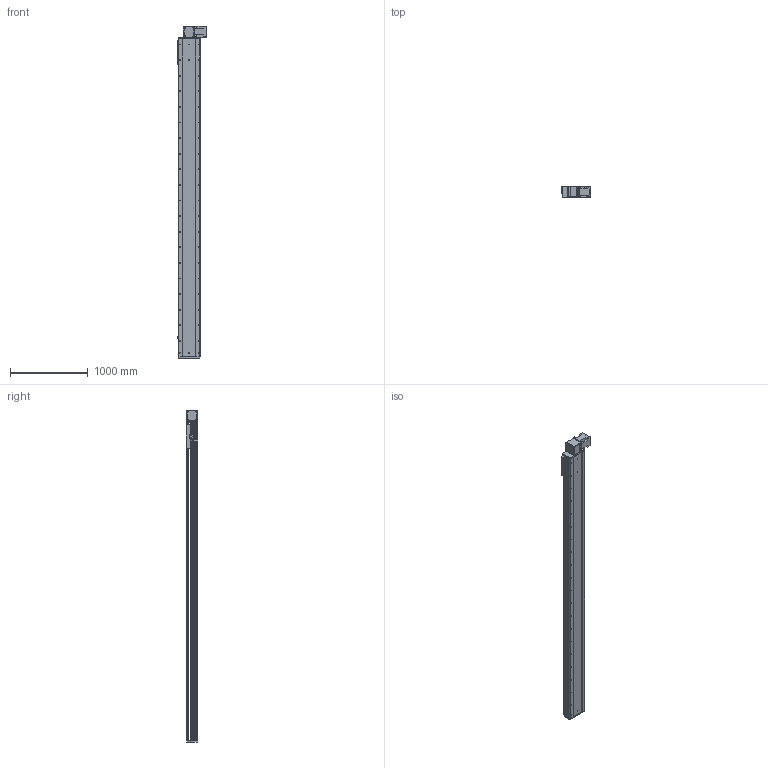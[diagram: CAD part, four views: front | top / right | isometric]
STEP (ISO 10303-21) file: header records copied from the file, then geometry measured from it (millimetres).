
FILE_DESCRIPTION (( 'STEP AP214' ), '1' );
FILE_NAME ('RTB28S-XX-3650-BL-M100-XX-C4.STEP', '2025-12-22T02:40:18', ( '' ), ( '' ), 'SwSTEP 2.0', 'SolidWorks 2018', '' );
FILE_SCHEMA (( 'AUTOMOTIVE_DESIGN' ));
Length unit declared in the file: millimetre
Products named in the file (4): RTB28S-GY-011^RTB28S-XX-XX-BL-M100-XX-C4; RTB28S-XX-3650-BL-M100-XX-C4; RTB28S-GY-004^RTB28S-XX-XX-BL-M100-XX-C4; RTB28S-GY-008^RTB28S-XX-XX-BL-M100-XX-C4
Assembly tree (3 placements, depth 2):
  RTB28S-XX-3650-BL-M100-XX-C4
    RTB28S-GY-011^RTB28S-XX-XX-BL-M100-XX-C4
    RTB28S-GY-004^RTB28S-XX-XX-BL-M100-XX-C4
    RTB28S-GY-008^RTB28S-XX-XX-BL-M100-XX-C4
Bounding box: 380.7 x 145 x 4257 mm (x, y, z)
Volume: 71348595.3 mm3; surface area: 6626867.5 mm2
Topology: 3 solids, 4 shells, 918 faces, 2478 edges, 1588 vertices
Faces by surface type: cylinder 463, plane 371, cone 80, torus 4
Entity records: 35831 total; most frequent: CARTESIAN_POINT 6952, DIRECTION 5280, ORIENTED_EDGE 4892, EDGE_CURVE 2446, AXIS2_PLACEMENT_3D 1960, VERTEX_POINT 1588, LINE 1360, VECTOR 1360
